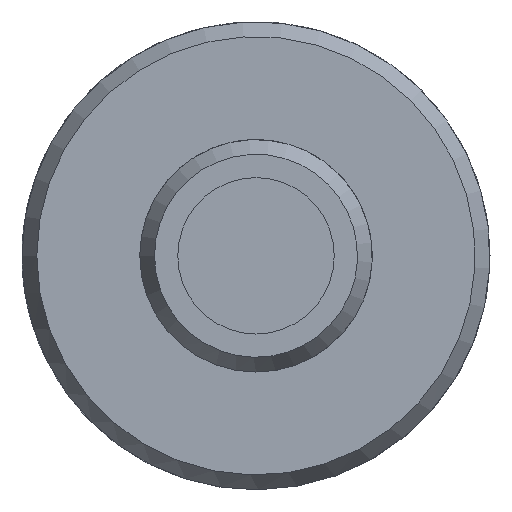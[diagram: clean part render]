
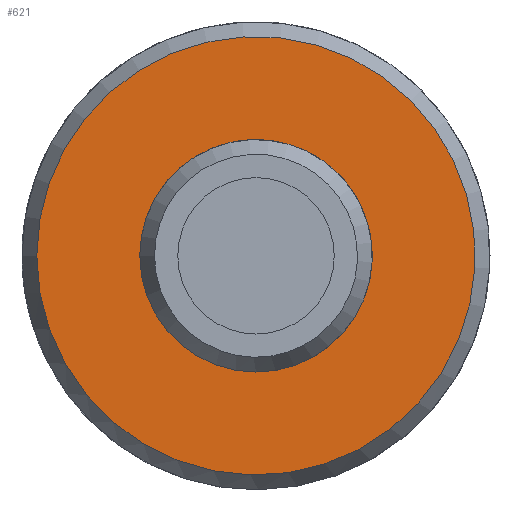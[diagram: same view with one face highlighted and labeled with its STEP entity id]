
A CAD part, left-side view. The second image highlights one B-rep face of the part: STEP entity #621.
In plain terms, the highlighted planar face has unit normal (-1, 0, 0).
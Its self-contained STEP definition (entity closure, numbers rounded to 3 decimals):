
#66=FACE_BOUND('',#123,.T.);
#73=PLANE('',#690);
#86=FACE_OUTER_BOUND('',#122,.T.);
#122=EDGE_LOOP('',(#449,#450));
#123=EDGE_LOOP('',(#451,#452));
#234=CIRCLE('',#685,1.18);
#235=CIRCLE('',#686,1.18);
#238=CIRCLE('',#691,2.225);
#239=CIRCLE('',#692,2.225);
#266=VERTEX_POINT('',#892);
#267=VERTEX_POINT('',#893);
#270=VERTEX_POINT('',#904);
#271=VERTEX_POINT('',#905);
#337=EDGE_CURVE('',#266,#267,#234,.T.);
#339=EDGE_CURVE('',#267,#266,#235,.T.);
#343=EDGE_CURVE('',#270,#271,#238,.T.);
#344=EDGE_CURVE('',#271,#270,#239,.T.);
#449=ORIENTED_EDGE('',*,*,#343,.T.);
#450=ORIENTED_EDGE('',*,*,#344,.T.);
#451=ORIENTED_EDGE('',*,*,#337,.F.);
#452=ORIENTED_EDGE('',*,*,#339,.F.);
#621=ADVANCED_FACE('',(#86,#66),#73,.T.);
#685=AXIS2_PLACEMENT_3D('',#894,#752,#753);
#686=AXIS2_PLACEMENT_3D('',#896,#755,#756);
#690=AXIS2_PLACEMENT_3D('',#903,#764,#765);
#691=AXIS2_PLACEMENT_3D('',#906,#766,#767);
#692=AXIS2_PLACEMENT_3D('',#907,#768,#769);
#752=DIRECTION('center_axis',(-1.,0.,0.));
#753=DIRECTION('ref_axis',(0.,-1.,0.));
#755=DIRECTION('center_axis',(-1.,0.,0.));
#756=DIRECTION('ref_axis',(0.,-1.,0.));
#764=DIRECTION('center_axis',(-1.,0.,0.));
#765=DIRECTION('ref_axis',(0.,0.,1.));
#766=DIRECTION('center_axis',(-1.,0.,0.));
#767=DIRECTION('ref_axis',(0.,-1.,0.));
#768=DIRECTION('center_axis',(-1.,0.,0.));
#769=DIRECTION('ref_axis',(0.,-1.,0.));
#892=CARTESIAN_POINT('',(-1.825,-1.18,0.));
#893=CARTESIAN_POINT('',(-1.825,0.,-1.18));
#894=CARTESIAN_POINT('Origin',(-1.825,0.,0.));
#896=CARTESIAN_POINT('Origin',(-1.825,0.,0.));
#903=CARTESIAN_POINT('Origin',(-1.825,0.,-2.252));
#904=CARTESIAN_POINT('',(-1.825,2.225,0.));
#905=CARTESIAN_POINT('',(-1.825,-2.171,-0.488));
#906=CARTESIAN_POINT('Origin',(-1.825,0.,0.));
#907=CARTESIAN_POINT('Origin',(-1.825,0.,0.));
